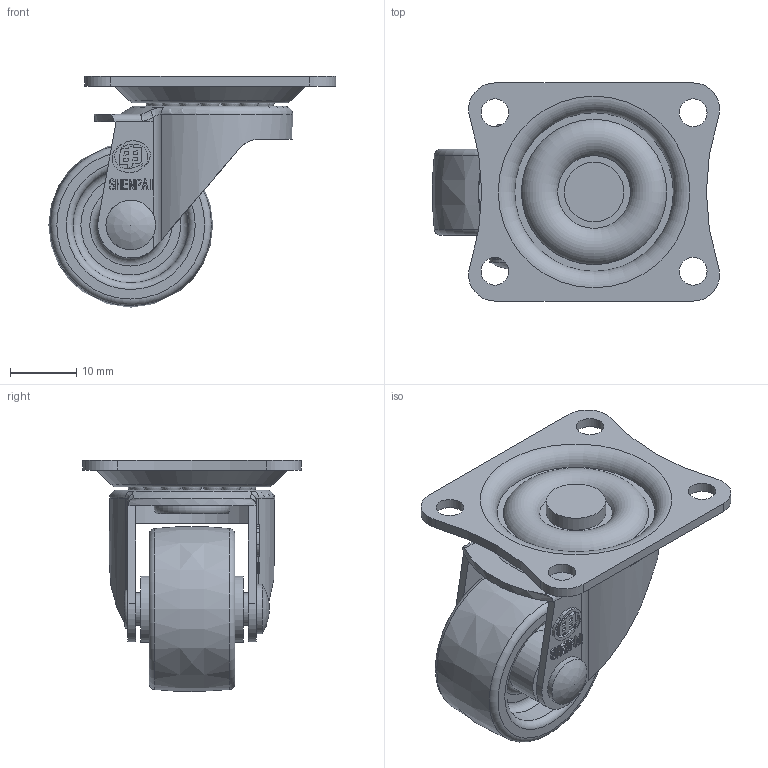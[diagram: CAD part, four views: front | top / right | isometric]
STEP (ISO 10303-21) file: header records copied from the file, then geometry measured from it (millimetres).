
FILE_DESCRIPTION(/* description */ (''),/* implementation_level */ '2;1');
FILE_NAME(/* name */ '10A01_1_F.stp',/* time_stamp */ '2022-10-06T13:41:12+08:00',/* author */ (''),/* organization */ (''),/* preprocessor_version */ 'ST-DEVELOPER v14',/* originating_system */ 'SIEMENS PLM Software NX 8.0',/* authorisation */ '');
FILE_SCHEMA (('AUTOMOTIVE_DESIGN { 1 0 10303 214 3 1 1 1 }'));
Length unit declared in the file: millimetre
Products named in the file (1): 10A01_1_F
Bounding box: 43.46 x 33 x 35 mm (x, y, z)
Volume: 8960.7 mm3; surface area: 9219.3 mm2
Topology: 1 solids, 2 shells, 305 faces, 800 edges, 535 vertices
Faces by surface type: plane 193, cylinder 63, torus 18, sphere 16, bspline 10, cone 5
Full cylindrical faces by diameter (mm): 4 x1, 4.2 x4, 5 x2, 5.2 x2, 7 x1, 7.1 x1, 7.5 x1, 8 x1, 8.5 x1, 9 x1, 10 x2, 17.5 x2
Entity records: 9282 total; most frequent: CARTESIAN_POINT 2560, ORIENTED_EDGE 1406, DIRECTION 1215, EDGE_CURVE 703, VERTEX_POINT 497, AXIS2_PLACEMENT_3D 473, EDGE_LOOP 411, ADVANCED_FACE 305
